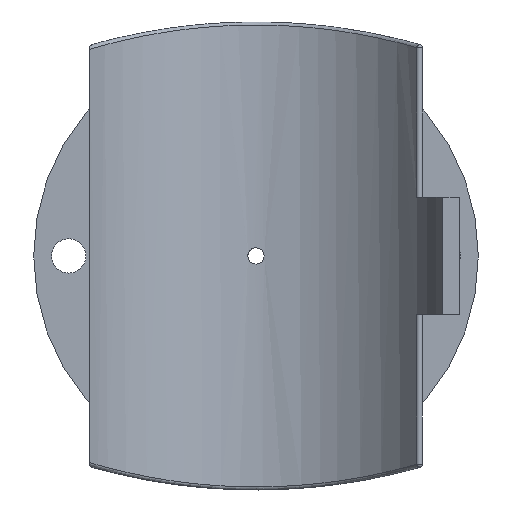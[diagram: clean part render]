
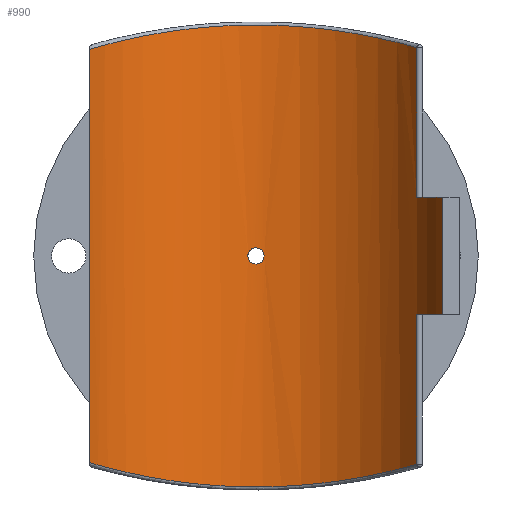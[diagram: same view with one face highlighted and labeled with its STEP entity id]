
A CAD part, front view. The second image highlights one B-rep face of the part: STEP entity #990.
In plain terms, the highlighted cylindrical face has radius 125 mm (diameter 250 mm), a partial arc.
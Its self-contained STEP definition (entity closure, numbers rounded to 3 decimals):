
#55=FACE_BOUND('',#331,.T.);
#101=B_SPLINE_CURVE_WITH_KNOTS('',3,(#2105,#2106,#2107,#2108,#2109,#2110,
#2111,#2112,#2113,#2114),.UNSPECIFIED.,.F.,.F.,(4,1,1,1,1,1,1,4),(-29.709,
-26.068,-22.426,-18.784,-15.143,-11.501,
-7.859,-4.218),.UNSPECIFIED.);
#102=B_SPLINE_CURVE_WITH_KNOTS('',3,(#2123,#2124,#2125,#2126,#2127,#2128,
#2129,#2130,#2131,#2132),.UNSPECIFIED.,.F.,.F.,(4,1,1,1,1,1,1,4),(-27.039,
-23.397,-19.755,-16.114,-12.472,
-8.831,-5.189,-1.547),.UNSPECIFIED.);
#103=B_SPLINE_CURVE_WITH_KNOTS('',3,(#2135,#2136,#2137,#2138,#2139,#2140,
#2141,#2142,#2143,#2144),.UNSPECIFIED.,.F.,.F.,(4,2,2,2,4),(0.,0.196,
0.392,0.588,0.784),.UNSPECIFIED.);
#104=B_SPLINE_CURVE_WITH_KNOTS('',3,(#2145,#2146,#2147,#2148,#2149,#2150,
#2151,#2152,#2153,#2154,#2155,#2156,#2157,#2158,#2159,#2160,#2161,#2162,
#2163,#2164,#2165,#2166,#2167,#2168,#2169,#2170),.UNSPECIFIED.,.F.,.F.,
(4,2,2,2,2,2,2,2,2,2,2,2,4),(0.784,0.98,1.175,
1.371,1.567,1.763,1.959,2.155,
2.351,2.547,2.743,2.939,3.134),
 .UNSPECIFIED.);
#125=LINE('',#1483,#172);
#136=LINE('',#1804,#183);
#143=LINE('',#2119,#190);
#144=LINE('',#2122,#191);
#172=VECTOR('',#1188,10.);
#183=VECTOR('',#1227,10.);
#190=VECTOR('',#1264,10.);
#191=VECTOR('',#1267,10.);
#228=CYLINDRICAL_SURFACE('',#1083,125.);
#268=FACE_OUTER_BOUND('',#330,.T.);
#330=EDGE_LOOP('',(#775,#776,#777,#778,#779,#780,#781,#782));
#331=EDGE_LOOP('',(#783,#784));
#413=CIRCLE('',#1084,125.);
#414=CIRCLE('',#1085,125.);
#466=VERTEX_POINT('',#1474);
#469=VERTEX_POINT('',#1481);
#489=VERTEX_POINT('',#1797);
#492=VERTEX_POINT('',#1802);
#505=VERTEX_POINT('',#2096);
#506=VERTEX_POINT('',#2116);
#507=VERTEX_POINT('',#2118);
#508=VERTEX_POINT('',#2121);
#509=VERTEX_POINT('',#2133);
#510=VERTEX_POINT('',#2134);
#561=EDGE_CURVE('',#469,#466,#125,.T.);
#591=EDGE_CURVE('',#492,#489,#136,.T.);
#614=EDGE_CURVE('',#505,#492,#101,.T.);
#615=EDGE_CURVE('',#506,#469,#413,.T.);
#616=EDGE_CURVE('',#506,#507,#143,.T.);
#617=EDGE_CURVE('',#489,#507,#414,.T.);
#618=EDGE_CURVE('',#508,#505,#144,.T.);
#619=EDGE_CURVE('',#466,#508,#102,.T.);
#620=EDGE_CURVE('',#509,#510,#103,.T.);
#621=EDGE_CURVE('',#510,#509,#104,.T.);
#775=ORIENTED_EDGE('',*,*,#615,.F.);
#776=ORIENTED_EDGE('',*,*,#616,.T.);
#777=ORIENTED_EDGE('',*,*,#617,.F.);
#778=ORIENTED_EDGE('',*,*,#591,.F.);
#779=ORIENTED_EDGE('',*,*,#614,.F.);
#780=ORIENTED_EDGE('',*,*,#618,.F.);
#781=ORIENTED_EDGE('',*,*,#619,.F.);
#782=ORIENTED_EDGE('',*,*,#561,.F.);
#783=ORIENTED_EDGE('',*,*,#620,.T.);
#784=ORIENTED_EDGE('',*,*,#621,.T.);
#990=ADVANCED_FACE('',(#268,#55),#228,.F.);
#1083=AXIS2_PLACEMENT_3D('',#2115,#1260,#1261);
#1084=AXIS2_PLACEMENT_3D('',#2117,#1262,#1263);
#1085=AXIS2_PLACEMENT_3D('',#2120,#1265,#1266);
#1188=DIRECTION('',(0.,0.,-1.));
#1227=DIRECTION('',(0.,0.,-1.));
#1260=DIRECTION('center_axis',(0.,0.,1.));
#1261=DIRECTION('ref_axis',(-1.,0.,0.));
#1262=DIRECTION('center_axis',(0.,0.,1.));
#1263=DIRECTION('ref_axis',(-0.957,-0.289,0.));
#1264=DIRECTION('',(0.,0.,1.));
#1265=DIRECTION('center_axis',(0.,0.,-1.));
#1266=DIRECTION('ref_axis',(-0.957,-0.289,0.));
#1267=DIRECTION('',(0.,0.,1.));
#1474=CARTESIAN_POINT('',(103.002,70.821,-133.49));
#1481=CARTESIAN_POINT('',(103.002,70.821,-37.5));
#1483=CARTESIAN_POINT('',(103.002,70.821,0.));
#1797=CARTESIAN_POINT('',(103.002,70.821,37.5));
#1802=CARTESIAN_POINT('',(103.002,70.821,133.49));
#1804=CARTESIAN_POINT('',(103.002,70.821,0.));
#2096=CARTESIAN_POINT('',(-106.65,65.198,132.422));
#2105=CARTESIAN_POINT('Ctrl Pts',(-106.65,65.198,132.422));
#2106=CARTESIAN_POINT('Ctrl Pts',(-100.49,75.275,134.26));
#2107=CARTESIAN_POINT('Ctrl Pts',(-85.347,93.604,138.433));
#2108=CARTESIAN_POINT('Ctrl Pts',(-55.819,113.737,144.279));
#2109=CARTESIAN_POINT('Ctrl Pts',(-21.527,124.883,147.953));
#2110=CARTESIAN_POINT('Ctrl Pts',(14.719,125.873,148.295));
#2111=CARTESIAN_POINT('Ctrl Pts',(49.618,116.581,145.187));
#2112=CARTESIAN_POINT('Ctrl Pts',(80.225,98.032,139.629));
#2113=CARTESIAN_POINT('Ctrl Pts',(96.318,80.542,135.41));
#2114=CARTESIAN_POINT('Ctrl Pts',(103.002,70.821,133.49));
#2115=CARTESIAN_POINT('Origin',(0.,0.,0.));
#2116=CARTESIAN_POINT('',(119.681,36.077,-37.5));
#2117=CARTESIAN_POINT('Origin',(0.,0.,
-37.5));
#2118=CARTESIAN_POINT('',(119.681,36.077,37.5));
#2119=CARTESIAN_POINT('',(119.681,36.077,0.));
#2120=CARTESIAN_POINT('Origin',(0.,0.,
37.5));
#2121=CARTESIAN_POINT('',(-106.65,65.198,-132.422));
#2122=CARTESIAN_POINT('',(-106.65,65.198,0.));
#2123=CARTESIAN_POINT('Ctrl Pts',(103.002,70.821,-133.49));
#2124=CARTESIAN_POINT('Ctrl Pts',(96.318,80.542,-135.41));
#2125=CARTESIAN_POINT('Ctrl Pts',(80.225,98.032,-139.629));
#2126=CARTESIAN_POINT('Ctrl Pts',(49.619,116.582,-145.188));
#2127=CARTESIAN_POINT('Ctrl Pts',(14.718,125.871,-148.293));
#2128=CARTESIAN_POINT('Ctrl Pts',(-21.529,124.885,-147.955));
#2129=CARTESIAN_POINT('Ctrl Pts',(-55.817,113.736,-144.278));
#2130=CARTESIAN_POINT('Ctrl Pts',(-85.348,93.604,-138.433));
#2131=CARTESIAN_POINT('Ctrl Pts',(-100.49,75.275,-134.26));
#2132=CARTESIAN_POINT('Ctrl Pts',(-106.65,65.198,-132.422));
#2133=CARTESIAN_POINT('',(5.2,124.892,0.));
#2134=CARTESIAN_POINT('',(0.,125.,-5.2));
#2135=CARTESIAN_POINT('Ctrl Pts',(5.2,124.892,0.));
#2136=CARTESIAN_POINT('Ctrl Pts',(5.2,124.892,-0.653));
#2137=CARTESIAN_POINT('Ctrl Pts',(5.069,124.897,-1.349));
#2138=CARTESIAN_POINT('Ctrl Pts',(4.539,124.918,-2.631));
#2139=CARTESIAN_POINT('Ctrl Pts',(4.139,124.932,-3.215));
#2140=CARTESIAN_POINT('Ctrl Pts',(3.215,124.959,-4.139));
#2141=CARTESIAN_POINT('Ctrl Pts',(2.631,124.974,-4.539));
#2142=CARTESIAN_POINT('Ctrl Pts',(1.349,124.994,-5.069));
#2143=CARTESIAN_POINT('Ctrl Pts',(0.653,125.,-5.2));
#2144=CARTESIAN_POINT('Ctrl Pts',(0.,125.,-5.2));
#2145=CARTESIAN_POINT('Ctrl Pts',(0.,125.,-5.2));
#2146=CARTESIAN_POINT('Ctrl Pts',(-0.653,125.,-5.2));
#2147=CARTESIAN_POINT('Ctrl Pts',(-1.349,124.994,-5.069));
#2148=CARTESIAN_POINT('Ctrl Pts',(-2.631,124.974,-4.539));
#2149=CARTESIAN_POINT('Ctrl Pts',(-3.215,124.959,-4.139));
#2150=CARTESIAN_POINT('Ctrl Pts',(-4.139,124.932,-3.215));
#2151=CARTESIAN_POINT('Ctrl Pts',(-4.539,124.918,-2.631));
#2152=CARTESIAN_POINT('Ctrl Pts',(-5.069,124.897,-1.349));
#2153=CARTESIAN_POINT('Ctrl Pts',(-5.2,124.892,-0.653));
#2154=CARTESIAN_POINT('Ctrl Pts',(-5.2,124.892,0.653));
#2155=CARTESIAN_POINT('Ctrl Pts',(-5.069,124.897,1.349));
#2156=CARTESIAN_POINT('Ctrl Pts',(-4.539,124.918,2.631));
#2157=CARTESIAN_POINT('Ctrl Pts',(-4.139,124.932,3.215));
#2158=CARTESIAN_POINT('Ctrl Pts',(-3.215,124.959,4.139));
#2159=CARTESIAN_POINT('Ctrl Pts',(-2.631,124.974,4.539));
#2160=CARTESIAN_POINT('Ctrl Pts',(-1.349,124.994,5.069));
#2161=CARTESIAN_POINT('Ctrl Pts',(-0.653,125.,5.2));
#2162=CARTESIAN_POINT('Ctrl Pts',(0.653,125.,5.2));
#2163=CARTESIAN_POINT('Ctrl Pts',(1.349,124.994,5.069));
#2164=CARTESIAN_POINT('Ctrl Pts',(2.631,124.974,4.539));
#2165=CARTESIAN_POINT('Ctrl Pts',(3.215,124.959,4.139));
#2166=CARTESIAN_POINT('Ctrl Pts',(4.139,124.932,3.215));
#2167=CARTESIAN_POINT('Ctrl Pts',(4.539,124.918,2.631));
#2168=CARTESIAN_POINT('Ctrl Pts',(5.069,124.897,1.349));
#2169=CARTESIAN_POINT('Ctrl Pts',(5.2,124.892,0.653));
#2170=CARTESIAN_POINT('Ctrl Pts',(5.2,124.892,0.));
